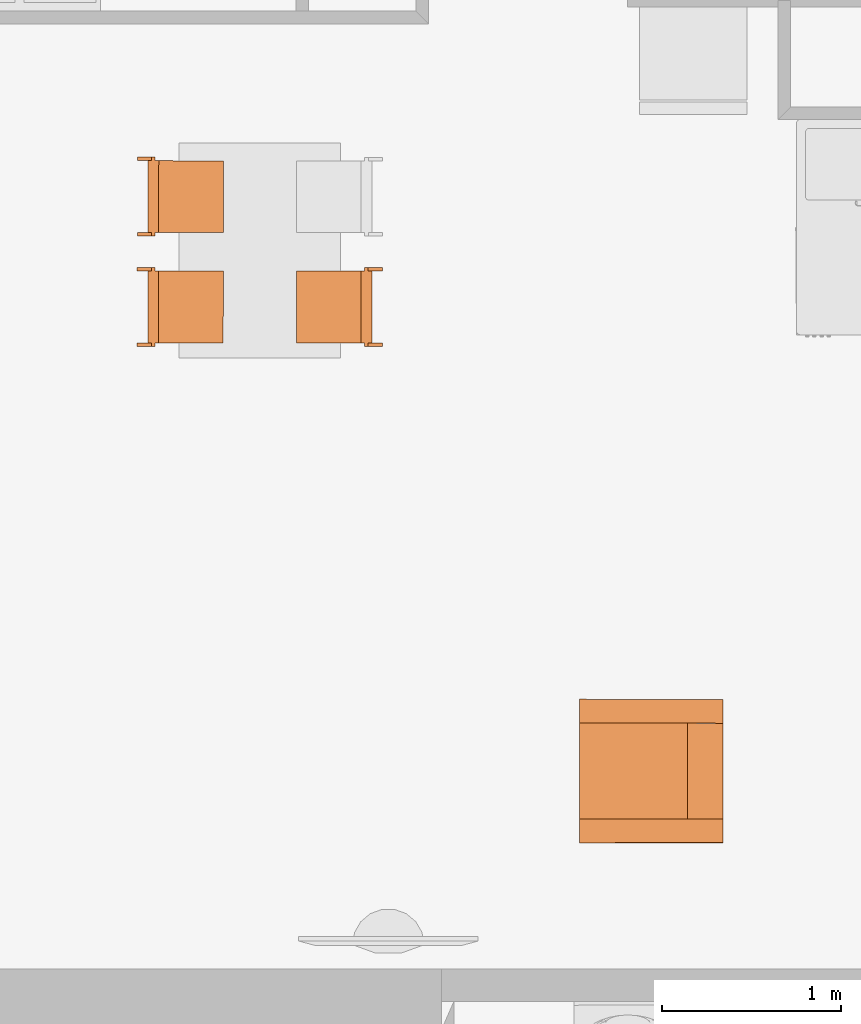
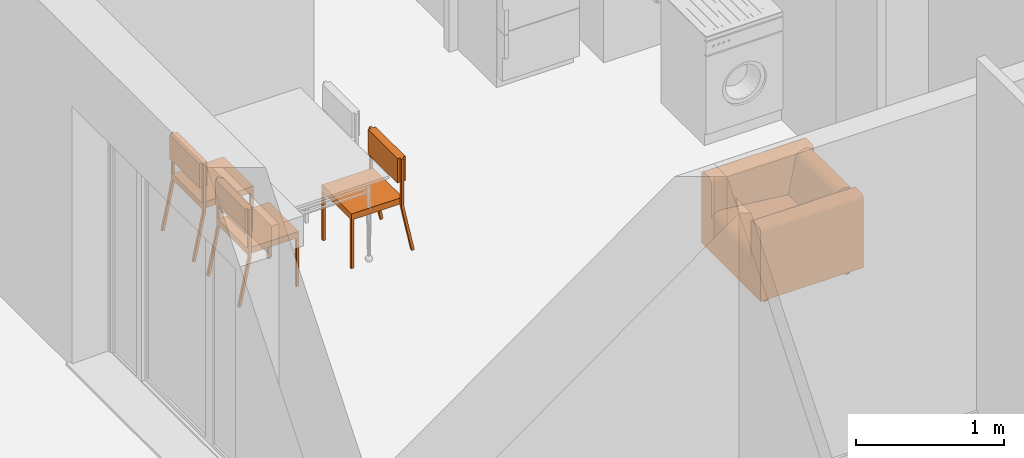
# One storey, part 143 of 164: 4 proxies.
"""IFC2X3 building model written with IfcOpenShell, lengths in millimetres."""

from ifc_helpers import new_model, entity, si_unit, converted_unit, derived_unit, money_unit, direction, frame, origin_with_axes, place, context, subcontext, project, spatial, faceted_brep, source, transform, mapped, type_object, element, save


model = new_model("IFC2X3")

# Units and contexts
model_context = context("Model", 3, precision=0.01, world=origin_with_axes(), true_north=direction((0.0, 1.0)))
body_context = subcontext(model_context, "Body", "Model", "MODEL_VIEW")
ifc_project = project(units=[si_unit("LENGTHUNIT", "METRE", prefix="MILLI"), si_unit("AREAUNIT", "SQUARE_METRE"), si_unit("VOLUMEUNIT", "CUBIC_METRE"), converted_unit("PLANEANGLEUNIT", "DEGREE", entity("IfcPlaneAngleMeasure", 0.0174532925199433), si_unit("PLANEANGLEUNIT", "RADIAN"), dimensions=[0, 0, 0, 0, 0, 0, 0]), money_unit("USD"), converted_unit("TIMEUNIT", "Year", entity("IfcTimeMeasure", 31557600.0), si_unit("TIMEUNIT", "SECOND"), dimensions=[0, 0, 1, 0, 0, 0, 0]), si_unit("MASSUNIT", "GRAM", prefix="KILO"), si_unit("THERMODYNAMICTEMPERATUREUNIT", "DEGREE_CELSIUS"), si_unit("LUMINOUSINTENSITYUNIT", "LUMEN"), si_unit("ENERGYUNIT", "JOULE", prefix="MEGA"), derived_unit("THERMALCONDUCTANCEUNIT", [(si_unit("POWERUNIT", "WATT"), 1), (si_unit("LENGTHUNIT", "METRE"), -1), (si_unit("THERMODYNAMICTEMPERATUREUNIT", "KELVIN"), -1)]), derived_unit("SPECIFICHEATCAPACITYUNIT", [(si_unit("ENERGYUNIT", "JOULE"), 1), (si_unit("MASSUNIT", "GRAM", prefix="KILO"), -1), (si_unit("THERMODYNAMICTEMPERATUREUNIT", "KELVIN"), -1)]), derived_unit("MASSDENSITYUNIT", [(si_unit("MASSUNIT", "GRAM", prefix="KILO"), 1), (si_unit("VOLUMEUNIT", "CUBIC_METRE"), -1)])], contexts=[model_context])

# Site, building, storey
site_placement = place(None, origin_with_axes())
site = spatial("IfcSite", under=ifc_project, at=site_placement, Name="Site", CompositionType="ELEMENT")
building_placement = place(site_placement, origin_with_axes())
building = spatial("IfcBuilding", under=site, at=building_placement, Name="Bâtiment", CompositionType="ELEMENT")
storey_placement = place(building_placement, frame((0.0, 0.0, 5750.0), z_axis=(0.0, 0.0, 1.0), x_axis=(1.0, 0.0, 0.0)))
storey = spatial("IfcBuildingStorey", under=building, at=storey_placement, Name="Etage1", CompositionType="ELEMENT", Elevation=5750.0)

# Proxies
building_element_proxy_type = type_object("IfcBuildingElementProxyType", PredefinedType="NOTDEFINED")
shared_shape_1 = source(origin_with_axes(), body_context, "Body", "Brep", [
    faceted_brep([(39.99999978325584, 0.0, 0.0), (19.99999989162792, 0.0, 0.0), (19.99999989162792, 19.99999936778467, 0.0), (39.99999978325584, 19.99999936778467, 0.0), (39.99999978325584, 0.0, 400.0), (19.99999989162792, 0.0, 400.0), (19.99999989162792, 19.99999936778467, 400.0), (39.99999978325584, 19.99999936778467, 400.0)], [[[0, 1, 2, 3]], [[1, 0, 4, 5]], [[2, 1, 5, 6]], [[3, 2, 6, 7]], [[0, 3, 7, 4]], [[5, 4, 7, 6]]]),
    faceted_brep([(419.9999977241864, 0.0, 0.0), (399.9999978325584, 0.0, 0.0), (399.9999978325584, 19.99999936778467, 0.0), (419.9999977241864, 19.99999936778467, 0.0), (419.9999977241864, 0.0, 400.0), (399.9999978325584, 0.0, 400.0), (399.9999978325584, 19.99999936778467, 400.0), (419.9999977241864, 19.99999936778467, 400.0)], [[[0, 1, 2, 3]], [[1, 0, 4, 5]], [[2, 1, 5, 6]], [[3, 2, 6, 7]], [[0, 3, 7, 4]], [[5, 4, 7, 6]]]),
    faceted_brep([(399.9999978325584, 0.0, 400.0000000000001), (39.99999978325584, 0.0, 400.0000000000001), (39.99999978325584, 19.99999936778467, 400.0000000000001), (399.9999978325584, 19.99999936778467, 400.0000000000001), (399.9999978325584, 0.0, 420.0000000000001), (39.99999978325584, 0.0, 420.0000000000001), (39.99999978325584, 19.99999936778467, 420.0000000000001), (399.9999978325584, 19.99999936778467, 420.0000000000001)], [[[0, 1, 2, 3]], [[1, 0, 4, 5]], [[2, 1, 5, 6]], [[3, 2, 6, 7]], [[0, 3, 7, 4]], [[5, 4, 7, 6]]]),
    faceted_brep([(39.99999978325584, 19.99999936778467, 400.0000000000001), (19.99999989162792, 19.99999936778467, 400.0000000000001), (19.99999989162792, 379.9999879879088, 400.0000000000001), (39.99999978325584, 379.9999879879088, 400.0000000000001), (39.99999978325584, 19.99999936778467, 420.0000000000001), (19.99999989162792, 19.99999936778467, 420.0000000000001), (19.99999989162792, 379.9999879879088, 420.0000000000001), (39.99999978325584, 379.9999879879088, 420.0000000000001)], [[[0, 1, 2, 3]], [[1, 0, 4, 5]], [[2, 1, 5, 6]], [[3, 2, 6, 7]], [[0, 3, 7, 4]], [[5, 4, 7, 6]]]),
    faceted_brep([(419.9999977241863, 379.9999879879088, 400.0000000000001), (19.99999989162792, 379.9999879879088, 400.0000000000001), (19.99999989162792, 399.9999873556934, 400.0000000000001), (419.9999977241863, 399.9999873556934, 400.0000000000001), (419.9999977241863, 379.9999879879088, 420.0000000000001), (19.99999989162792, 379.9999879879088, 420.0000000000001), (19.99999989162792, 399.9999873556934, 420.0000000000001), (419.9999977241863, 399.9999873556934, 420.0000000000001)], [[[0, 1, 2, 3]], [[1, 0, 4, 5]], [[2, 1, 5, 6]], [[3, 2, 6, 7]], [[0, 3, 7, 4]], [[5, 4, 7, 6]]]),
    faceted_brep([(419.9999977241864, 19.99999936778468, 400.0000000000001), (399.9999978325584, 19.99999936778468, 400.0000000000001), (399.9999978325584, 379.9999879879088, 400.0000000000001), (419.9999977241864, 379.9999879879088, 400.0000000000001), (419.9999977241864, 19.99999936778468, 420.0000000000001), (399.9999978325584, 19.99999936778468, 420.0000000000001), (399.9999978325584, 379.9999879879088, 420.0000000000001), (419.9999977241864, 379.9999879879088, 420.0000000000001)], [[[0, 1, 2, 3]], [[1, 0, 4, 5]], [[2, 1, 5, 6]], [[3, 2, 6, 7]], [[0, 3, 7, 4]], [[5, 4, 7, 6]]]),
    faceted_brep([(419.9999977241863, 0.0, 400.0), (19.99999989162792, 0.0, 400.0), (19.99999989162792, 399.9999873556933, 400.0), (419.9999977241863, 399.9999873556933, 400.0), (419.9999977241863, 0.0, 450.0), (19.99999989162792, 0.0, 450.0), (19.99999989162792, 399.9999873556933, 450.0), (419.9999977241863, 399.9999873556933, 450.0)], [[[0, 1, 2, 3]], [[1, 0, 4, 5]], [[2, 1, 5, 6]], [[3, 2, 6, 7]], [[0, 3, 7, 4]], [[5, 4, 7, 6]]]),
    faceted_brep([(19.99999989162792, 379.9999879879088, 380.0), (0.0, 379.9999879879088, 380.0), (0.0, 399.9999873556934, 380.0), (19.99999989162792, 399.9999873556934, 380.0), (19.99999989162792, 379.9999879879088, 780.0), (0.0, 379.9999879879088, 780.0), (0.0, 399.9999873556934, 780.0), (19.99999989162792, 399.9999873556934, 780.0)], [[[0, 1, 2, 3]], [[1, 0, 4, 5]], [[2, 1, 5, 6]], [[3, 2, 6, 7]], [[0, 3, 7, 4]], [[5, 4, 7, 6]]]),
    faceted_brep([(439.9999976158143, 379.9999879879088, 380.0), (419.9999977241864, 379.9999879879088, 380.0), (419.9999977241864, 399.9999873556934, 380.0), (439.9999976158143, 399.9999873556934, 380.0), (439.9999976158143, 379.9999879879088, 780.0), (419.9999977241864, 379.9999879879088, 780.0), (419.9999977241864, 399.9999873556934, 780.0), (439.9999976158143, 399.9999873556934, 780.0)], [[[0, 1, 2, 3]], [[1, 0, 4, 5]], [[2, 1, 5, 6]], [[3, 2, 6, 7]], [[0, 3, 7, 4]], [[5, 4, 7, 6]]]),
    faceted_brep([(419.9999977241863, 359.999988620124, 580.0000000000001), (19.99999989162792, 359.999988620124, 580.0000000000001), (19.99999989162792, 419.9999867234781, 580.0000000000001), (419.9999977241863, 419.9999867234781, 580.0000000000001), (419.9999977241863, 359.999988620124, 780.0), (19.99999989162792, 359.999988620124, 780.0), (19.99999989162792, 419.9999867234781, 780.0), (419.9999977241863, 419.9999867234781, 780.0)], [[[0, 1, 2, 3]], [[1, 0, 4, 5]], [[2, 1, 5, 6]], [[3, 2, 6, 7]], [[0, 3, 7, 4]], [[5, 4, 7, 6]]]),
    faceted_brep([(19.99999989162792, 459.9999854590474, 0.0), (0.0, 459.9999854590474, 0.0), (0.0, 479.5709559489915, 4.120326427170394), (19.99999989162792, 479.5709559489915, 4.120326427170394), (19.99999989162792, 379.997669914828, 379.999760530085), (0.0, 379.997669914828, 379.999760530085), (0.0, 399.5686404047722, 384.1200869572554), (19.99999989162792, 399.5686404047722, 384.1200869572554)], [[[0, 1, 2, 3]], [[1, 0, 4, 5]], [[2, 1, 5, 6]], [[3, 2, 6, 7]], [[0, 3, 7, 4]], [[5, 4, 7, 6]]]),
    faceted_brep([(439.9999976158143, 459.9999854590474, 0.0), (419.9999977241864, 459.9999854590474, 0.0), (419.9999977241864, 479.5709559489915, 4.120326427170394), (439.9999976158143, 479.5709559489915, 4.120326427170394), (439.9999976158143, 379.997669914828, 379.999760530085), (419.9999977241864, 379.997669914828, 379.999760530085), (419.9999977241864, 399.5686404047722, 384.1200869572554), (439.9999976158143, 399.5686404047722, 384.1200869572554)], [[[0, 1, 2, 3]], [[1, 0, 4, 5]], [[2, 1, 5, 6]], [[3, 2, 6, 7]], [[0, 3, 7, 4]], [[5, 4, 7, 6]]]),
])
proxy_1_placement = place(storey_placement, frame((2220344.917869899, -640105.751493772, 0.0), z_axis=(0.0, 0.0, 1.0), x_axis=(-0.0005412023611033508, -0.9999998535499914, 0.0)))
element("IfcBuildingElementProxy", 1, at=proxy_1_placement, inside=storey, type_object=building_element_proxy_type, Name="Obj.-027", context=body_context, shape_type="MappedRepresentation", body=[
    mapped(shared_shape_1, transform((0.0, 0.0, 0.0))),
])
shared_shape_2 = source(origin_with_axes(), body_context, "Body", "Brep", [
    faceted_brep([(-39.99999978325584, 0.0, 0.0), (-39.99999978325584, 19.99999936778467, 0.0), (-19.99999989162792, 19.99999936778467, 0.0), (-19.99999989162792, 0.0, 0.0), (-39.99999978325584, 0.0, 400.0), (-39.99999978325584, 19.99999936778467, 400.0), (-19.99999989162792, 19.99999936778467, 400.0), (-19.99999989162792, 0.0, 400.0)], [[[0, 1, 2, 3]], [[0, 4, 5, 1]], [[1, 5, 6, 2]], [[2, 6, 7, 3]], [[3, 7, 4, 0]], [[7, 6, 5, 4]]]),
    faceted_brep([(-419.9999977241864, 0.0, 0.0), (-419.9999977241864, 19.99999936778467, 0.0), (-399.9999978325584, 19.99999936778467, 0.0), (-399.9999978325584, 0.0, 0.0), (-419.9999977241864, 0.0, 400.0), (-419.9999977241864, 19.99999936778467, 400.0), (-399.9999978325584, 19.99999936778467, 400.0), (-399.9999978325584, 0.0, 400.0)], [[[0, 1, 2, 3]], [[0, 4, 5, 1]], [[1, 5, 6, 2]], [[2, 6, 7, 3]], [[3, 7, 4, 0]], [[7, 6, 5, 4]]]),
    faceted_brep([(-399.9999978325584, 0.0, 400.0000000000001), (-399.9999978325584, 19.99999936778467, 400.0000000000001), (-39.99999978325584, 19.99999936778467, 400.0000000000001), (-39.99999978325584, 0.0, 400.0000000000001), (-399.9999978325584, 0.0, 420.0000000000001), (-399.9999978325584, 19.99999936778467, 420.0000000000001), (-39.99999978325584, 19.99999936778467, 420.0000000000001), (-39.99999978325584, 0.0, 420.0000000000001)], [[[0, 1, 2, 3]], [[0, 4, 5, 1]], [[1, 5, 6, 2]], [[2, 6, 7, 3]], [[3, 7, 4, 0]], [[7, 6, 5, 4]]]),
    faceted_brep([(-39.99999978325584, 19.99999936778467, 400.0000000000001), (-39.99999978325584, 379.9999879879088, 400.0000000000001), (-19.99999989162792, 379.9999879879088, 400.0000000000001), (-19.99999989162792, 19.99999936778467, 400.0000000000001), (-39.99999978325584, 19.99999936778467, 420.0000000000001), (-39.99999978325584, 379.9999879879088, 420.0000000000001), (-19.99999989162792, 379.9999879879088, 420.0000000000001), (-19.99999989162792, 19.99999936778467, 420.0000000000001)], [[[0, 1, 2, 3]], [[0, 4, 5, 1]], [[1, 5, 6, 2]], [[2, 6, 7, 3]], [[3, 7, 4, 0]], [[7, 6, 5, 4]]]),
    faceted_brep([(-419.9999977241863, 379.9999879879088, 400.0000000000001), (-419.9999977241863, 399.9999873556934, 400.0000000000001), (-19.99999989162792, 399.9999873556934, 400.0000000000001), (-19.99999989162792, 379.9999879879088, 400.0000000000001), (-419.9999977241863, 379.9999879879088, 420.0000000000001), (-419.9999977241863, 399.9999873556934, 420.0000000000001), (-19.99999989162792, 399.9999873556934, 420.0000000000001), (-19.99999989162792, 379.9999879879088, 420.0000000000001)], [[[0, 1, 2, 3]], [[0, 4, 5, 1]], [[1, 5, 6, 2]], [[2, 6, 7, 3]], [[3, 7, 4, 0]], [[7, 6, 5, 4]]]),
    faceted_brep([(-419.9999977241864, 19.99999936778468, 400.0000000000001), (-419.9999977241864, 379.9999879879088, 400.0000000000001), (-399.9999978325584, 379.9999879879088, 400.0000000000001), (-399.9999978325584, 19.99999936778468, 400.0000000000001), (-419.9999977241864, 19.99999936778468, 420.0000000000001), (-419.9999977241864, 379.9999879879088, 420.0000000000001), (-399.9999978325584, 379.9999879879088, 420.0000000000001), (-399.9999978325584, 19.99999936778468, 420.0000000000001)], [[[0, 1, 2, 3]], [[0, 4, 5, 1]], [[1, 5, 6, 2]], [[2, 6, 7, 3]], [[3, 7, 4, 0]], [[7, 6, 5, 4]]]),
    faceted_brep([(-419.9999977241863, 0.0, 400.0), (-419.9999977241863, 399.9999873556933, 400.0), (-19.99999989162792, 399.9999873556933, 400.0), (-19.99999989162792, 0.0, 400.0), (-419.9999977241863, 0.0, 450.0), (-419.9999977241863, 399.9999873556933, 450.0), (-19.99999989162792, 399.9999873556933, 450.0), (-19.99999989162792, 0.0, 450.0)], [[[0, 1, 2, 3]], [[0, 4, 5, 1]], [[1, 5, 6, 2]], [[2, 6, 7, 3]], [[3, 7, 4, 0]], [[7, 6, 5, 4]]]),
    faceted_brep([(-19.99999989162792, 379.9999879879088, 380.0), (-19.99999989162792, 399.9999873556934, 380.0), (0.0, 399.9999873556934, 380.0), (0.0, 379.9999879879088, 380.0), (-19.99999989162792, 379.9999879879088, 780.0), (-19.99999989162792, 399.9999873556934, 780.0), (0.0, 399.9999873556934, 780.0), (0.0, 379.9999879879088, 780.0)], [[[0, 1, 2, 3]], [[0, 4, 5, 1]], [[1, 5, 6, 2]], [[2, 6, 7, 3]], [[3, 7, 4, 0]], [[7, 6, 5, 4]]]),
    faceted_brep([(-439.9999976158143, 379.9999879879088, 380.0), (-439.9999976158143, 399.9999873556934, 380.0), (-419.9999977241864, 399.9999873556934, 380.0), (-419.9999977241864, 379.9999879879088, 380.0), (-439.9999976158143, 379.9999879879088, 780.0), (-439.9999976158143, 399.9999873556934, 780.0), (-419.9999977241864, 399.9999873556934, 780.0), (-419.9999977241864, 379.9999879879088, 780.0)], [[[0, 1, 2, 3]], [[0, 4, 5, 1]], [[1, 5, 6, 2]], [[2, 6, 7, 3]], [[3, 7, 4, 0]], [[7, 6, 5, 4]]]),
    faceted_brep([(-419.9999977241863, 359.999988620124, 580.0000000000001), (-419.9999977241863, 419.9999867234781, 580.0000000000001), (-19.99999989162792, 419.9999867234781, 580.0000000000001), (-19.99999989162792, 359.999988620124, 580.0000000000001), (-419.9999977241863, 359.999988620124, 780.0), (-419.9999977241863, 419.9999867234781, 780.0), (-19.99999989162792, 419.9999867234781, 780.0), (-19.99999989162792, 359.999988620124, 780.0)], [[[0, 1, 2, 3]], [[0, 4, 5, 1]], [[1, 5, 6, 2]], [[2, 6, 7, 3]], [[3, 7, 4, 0]], [[7, 6, 5, 4]]]),
    faceted_brep([(-19.99999989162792, 459.9999854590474, 0.0), (-19.99999989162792, 479.5709559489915, 4.120326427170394), (0.0, 479.5709559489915, 4.120326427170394), (0.0, 459.9999854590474, 0.0), (-19.99999989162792, 379.997669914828, 379.999760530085), (-19.99999989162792, 399.5686404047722, 384.1200869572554), (0.0, 399.5686404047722, 384.1200869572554), (0.0, 379.997669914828, 379.999760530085)], [[[0, 1, 2, 3]], [[0, 4, 5, 1]], [[1, 5, 6, 2]], [[2, 6, 7, 3]], [[3, 7, 4, 0]], [[7, 6, 5, 4]]]),
    faceted_brep([(-439.9999976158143, 459.9999854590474, 0.0), (-439.9999976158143, 479.5709559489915, 4.120326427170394), (-419.9999977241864, 479.5709559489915, 4.120326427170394), (-419.9999977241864, 459.9999854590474, 0.0), (-439.9999976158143, 379.997669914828, 379.999760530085), (-439.9999976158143, 399.5686404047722, 384.1200869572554), (-419.9999977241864, 399.5686404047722, 384.1200869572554), (-419.9999977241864, 379.997669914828, 379.999760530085)], [[[0, 1, 2, 3]], [[0, 4, 5, 1]], [[1, 5, 6, 2]], [[2, 6, 7, 3]], [[3, 7, 4, 0]], [[7, 6, 5, 4]]]),
])
for number, where, z_axis, x_axis, name in (
    (2, (2219936.860546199, -640105.5306521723, 0.0), (0.0, 0.0, 1.0), (0.0005412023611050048, 0.9999998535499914, 0.0), "Obj.-027"),
    (3, (2219937.193453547, -639490.4053373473, 0.0), (0.0, 0.0, 1.0), (0.0005412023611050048, 0.9999998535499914, 0.0), "Obj.-027"),
):
    element("IfcBuildingElementProxy", number, at=place(storey_placement, frame(where, z_axis=z_axis, x_axis=x_axis)), inside=storey, type_object=building_element_proxy_type, Name=name, context=body_context, shape_type="MappedRepresentation", body=[
        mapped(shared_shape_2, transform((0.0, 0.0, 0.0))),
    ])
shared_shape_3 = source(origin_with_axes(), body_context, "Body", "Brep", [
    faceted_brep([(-333.3000000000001, 66.7, 0.0), (-333.3000000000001, 100.0, 0.0), (-300.0000000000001, 100.0, 0.0), (-300.0000000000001, 66.7, 0.0), (-333.3000000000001, 66.7, 66.69999999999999), (-333.3000000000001, 100.0, 66.69999999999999), (-300.0000000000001, 100.0, 66.69999999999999), (-300.0000000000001, 66.7, 66.69999999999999)], [[[0, 1, 2, 3]], [[0, 4, 5, 1]], [[1, 5, 6, 2]], [[2, 6, 7, 3]], [[3, 7, 4, 0]], [[7, 6, 5, 4]]]),
    faceted_brep([(-333.3000000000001, 700.0000000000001, 0.0), (-333.3000000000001, 733.3000000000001, 0.0), (-300.0000000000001, 733.3000000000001, 0.0), (-300.0000000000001, 700.0000000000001, 0.0), (-333.3000000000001, 700.0000000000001, 66.69999999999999), (-333.3000000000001, 733.3000000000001, 66.69999999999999), (-300.0000000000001, 733.3000000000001, 66.69999999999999), (-300.0000000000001, 700.0000000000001, 66.69999999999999)], [[[0, 1, 2, 3]], [[0, 4, 5, 1]], [[1, 5, 6, 2]], [[2, 6, 7, 3]], [[3, 7, 4, 0]], [[7, 6, 5, 4]]]),
    faceted_brep([(300.0000000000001, 66.7, 0.0), (300.0000000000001, 100.0, 0.0), (333.3000000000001, 100.0, 0.0), (333.3000000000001, 66.7, 0.0), (300.0000000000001, 66.7, 66.69999999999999), (300.0000000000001, 100.0, 66.69999999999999), (333.3000000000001, 100.0, 66.69999999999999), (333.3000000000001, 66.7, 66.69999999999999)], [[[0, 1, 2, 3]], [[0, 4, 5, 1]], [[1, 5, 6, 2]], [[2, 6, 7, 3]], [[3, 7, 4, 0]], [[7, 6, 5, 4]]]),
    faceted_brep([(300.0000000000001, 700.0000000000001, 0.0), (300.0000000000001, 733.3000000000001, 0.0), (333.3000000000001, 733.3000000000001, 0.0), (333.3000000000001, 700.0000000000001, 0.0), (300.0000000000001, 700.0000000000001, 66.69999999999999), (300.0000000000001, 733.3000000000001, 66.69999999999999), (333.3000000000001, 733.3000000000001, 66.69999999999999), (333.3000000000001, 700.0000000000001, 66.69999999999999)], [[[0, 1, 2, 3]], [[0, 4, 5, 1]], [[1, 5, 6, 2]], [[2, 6, 7, 3]], [[3, 7, 4, 0]], [[7, 6, 5, 4]]]),
    faceted_brep([(-266.7, 800.0, 66.69999999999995), (-266.7, 0.0, 66.69999999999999), (-400.033, 0.0, 66.69999999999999), (-400.033, 800.0, 66.69999999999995), (-266.7, 800.0, 67.19999999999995), (-266.7, 0.0, 67.19999999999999), (-266.7, 0.0, 633.37), (-266.7, 0.0, 636.2859999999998), (-267.713, 0.0, 642.029), (-269.707, 0.0, 647.5099999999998), (-272.623, 0.0, 652.5599999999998), (-276.372, 0.0, 657.0279999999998), (-280.84, 0.0, 660.7769999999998), (-285.89, 0.0, 663.6929999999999), (-291.371, 0.0, 665.6869999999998), (-297.114, 0.0, 666.6999999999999), (-300.03, 0.0, 666.6999999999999), (-366.703, 0.0, 666.6999999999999), (-369.619, 0.0, 666.6999999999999), (-375.363, 0.0, 665.6869999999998), (-380.843, 0.0, 663.6929999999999), (-385.894, 0.0, 660.7769999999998), (-390.361, 0.0, 657.0279999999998), (-394.11, 0.0, 652.5599999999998), (-397.026, 0.0, 647.5099999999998), (-399.021, 0.0, 642.029), (-400.033, 0.0, 636.2859999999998), (-400.033, 0.0, 633.37), (-400.033, 800.0, 633.37), (-400.033, 800.0, 636.2859999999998), (-399.021, 800.0, 642.029), (-397.026, 800.0, 647.5099999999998), (-394.11, 800.0, 652.5599999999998), (-390.361, 800.0, 657.0279999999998), (-385.894, 800.0, 660.7769999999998), (-380.843, 800.0, 663.6929999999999), (-375.363, 800.0, 665.6869999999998), (-369.619, 800.0, 666.6999999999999), (-366.703, 800.0, 666.6999999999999), (-300.03, 800.0, 666.6999999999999), (-297.114, 800.0, 666.6999999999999), (-291.371, 800.0, 665.6869999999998), (-285.89, 800.0, 663.6929999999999), (-280.84, 800.0, 660.7769999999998), (-276.372, 800.0, 657.0279999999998), (-272.623, 800.0, 652.5599999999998), (-269.707, 800.0, 647.5099999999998), (-267.713, 800.0, 642.029), (-266.7, 800.0, 636.2859999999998), (-266.7, 800.0, 633.37)], [[[0, 1, 2, 3]], [[4, 5, 1, 0]], [[1, 5, 6, 7, 8, 9, 10, 11, 12, 13, 14, 15, 16, 17, 18, 19, 20, 21, 22, 23, 24, 25, 26, 27, 2]], [[3, 2, 27, 28]], [[0, 3, 28, 29, 30, 31, 32, 33, 34, 35, 36, 37, 38, 39, 40, 41, 42, 43, 44, 45, 46, 47, 48, 49, 4]], [[49, 6, 5, 4]], [[48, 7, 6, 49]], [[47, 8, 7, 48]], [[46, 9, 8, 47]], [[45, 10, 9, 46]], [[44, 11, 10, 45]], [[43, 12, 11, 44]], [[42, 13, 12, 43]], [[41, 14, 13, 42]], [[40, 15, 14, 41]], [[39, 16, 15, 40]], [[38, 17, 16, 39]], [[37, 18, 17, 38]], [[36, 19, 18, 37]], [[35, 20, 19, 36]], [[34, 21, 20, 35]], [[33, 22, 21, 34]], [[32, 23, 22, 33]], [[31, 24, 23, 32]], [[30, 25, 24, 31]], [[29, 26, 25, 30]], [[28, 27, 26, 29]]]),
    faceted_brep([(400.0, 800.0, 66.69999999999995), (400.0, 0.0, 66.69999999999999), (266.667, 0.0, 66.69999999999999), (266.667, 800.0, 66.69999999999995), (400.0, 800.0, 67.19999999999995), (400.0, 0.0, 67.19999999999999), (400.0, 0.0, 633.37), (400.0, 0.0, 636.2859999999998), (398.987, 0.0, 642.029), (396.9930000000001, 0.0, 647.5099999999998), (394.077, 0.0, 652.5599999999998), (390.328, 0.0, 657.0279999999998), (385.86, 0.0, 660.7769999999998), (380.8100000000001, 0.0, 663.6929999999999), (375.329, 0.0, 665.6869999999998), (369.586, 0.0, 666.6999999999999), (366.67, 0.0, 666.6999999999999), (299.997, 0.0, 666.6999999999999), (297.081, 0.0, 666.6999999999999), (291.337, 0.0, 665.6869999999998), (285.857, 0.0, 663.6929999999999), (280.806, 0.0, 660.7769999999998), (276.339, 0.0, 657.0279999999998), (272.59, 0.0, 652.5599999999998), (269.674, 0.0, 647.5099999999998), (267.679, 0.0, 642.029), (266.667, 0.0, 636.2859999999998), (266.667, 0.0, 633.37), (266.667, 800.0, 633.37), (266.667, 800.0, 636.2859999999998), (267.679, 800.0, 642.029), (269.674, 800.0, 647.5099999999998), (272.59, 800.0, 652.5599999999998), (276.339, 800.0, 657.0279999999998), (280.806, 800.0, 660.7769999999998), (285.857, 800.0, 663.6929999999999), (291.337, 800.0, 665.6869999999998), (297.081, 800.0, 666.6999999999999), (299.997, 800.0, 666.6999999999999), (366.67, 800.0, 666.6999999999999), (369.586, 800.0, 666.6999999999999), (375.329, 800.0, 665.6869999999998), (380.8100000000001, 800.0, 663.6929999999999), (385.86, 800.0, 660.7769999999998), (390.328, 800.0, 657.0279999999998), (394.077, 800.0, 652.5599999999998), (396.9930000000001, 800.0, 647.5099999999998), (398.987, 800.0, 642.029), (400.0, 800.0, 636.2859999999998), (400.0, 800.0, 633.37)], [[[0, 1, 2, 3]], [[4, 5, 1, 0]], [[1, 5, 6, 7, 8, 9, 10, 11, 12, 13, 14, 15, 16, 17, 18, 19, 20, 21, 22, 23, 24, 25, 26, 27, 2]], [[3, 2, 27, 28]], [[0, 3, 28, 29, 30, 31, 32, 33, 34, 35, 36, 37, 38, 39, 40, 41, 42, 43, 44, 45, 46, 47, 48, 49, 4]], [[49, 6, 5, 4]], [[48, 7, 6, 49]], [[47, 8, 7, 48]], [[46, 9, 8, 47]], [[45, 10, 9, 46]], [[44, 11, 10, 45]], [[43, 12, 11, 44]], [[42, 13, 12, 43]], [[41, 14, 13, 42]], [[40, 15, 14, 41]], [[39, 16, 15, 40]], [[38, 17, 16, 39]], [[37, 18, 17, 38]], [[36, 19, 18, 37]], [[35, 20, 19, 36]], [[34, 21, 20, 35]], [[33, 22, 21, 34]], [[32, 23, 22, 33]], [[31, 24, 23, 32]], [[30, 25, 24, 31]], [[29, 26, 25, 30]], [[28, 27, 26, 29]]]),
    faceted_brep([(266.6667, 0.0, 66.69999999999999), (-266.6333, 0.0, 66.69999999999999), (-266.6333, 800.0, 66.69999999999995), (266.6667, 800.0, 66.69999999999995), (266.6667, 0.0, 67.2), (-266.6333, 0.0, 67.2), (-266.6333, 0.0, 325.5449999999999), (-266.6333, -0.2359999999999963, 327.1109999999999), (-266.6333, 1.052000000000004, 338.7049999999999), (-266.6333, 4.334000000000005, 349.8989999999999), (-266.6333, 9.510000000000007, 360.3539999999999), (-266.6333, 16.42300000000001, 369.7509999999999), (-266.6333, 24.86200000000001, 377.8049999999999), (-266.6333, 34.57200000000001, 384.271), (-266.6333, 45.25800000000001, 388.9519999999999), (-266.6333, 56.59300000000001, 391.707), (-266.6333, 68.23500000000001, 392.4519999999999), (-266.6333, 74.03200000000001, 391.808), (-266.6333, 600.0000000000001, 333.3669999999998), (-266.6333, 600.0980000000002, 333.8569999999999), (-266.6333, 655.9480000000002, 613.1049999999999), (-266.6333, 656.6790000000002, 617.351), (-266.6333, 660.6690000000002, 628.314), (-266.6333, 666.5020000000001, 638.4159999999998), (-266.6333, 674.0000000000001, 647.3529999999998), (-266.6333, 682.937, 654.8509999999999), (-266.6333, 693.0390000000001, 660.6839999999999), (-266.6333, 704.0020000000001, 664.6739999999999), (-266.6333, 715.4900000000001, 666.6999999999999), (-266.6333, 721.3230000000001, 666.6999999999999), (-266.6333, 733.33, 666.6999999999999), (-266.6333, 739.163, 666.6999999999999), (-266.6333, 750.6510000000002, 664.6739999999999), (-266.6333, 761.614, 660.6839999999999), (-266.6333, 771.716, 654.8509999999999), (-266.6333, 780.653, 647.3529999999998), (-266.6333, 788.1510000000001, 638.4159999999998), (-266.6333, 793.984, 628.314), (-266.6333, 797.974, 617.351), (-266.6333, 800.0, 605.8629999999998), (-266.6333, 800.0, 600.0299999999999), (266.6667, 800.0, 600.0299999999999), (266.6667, 800.0, 605.8629999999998), (266.6667, 797.974, 617.351), (266.6667, 793.984, 628.314), (266.6667, 788.1510000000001, 638.4159999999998), (266.6667, 780.653, 647.3529999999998), (266.6667, 771.716, 654.8509999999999), (266.6667, 761.614, 660.6839999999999), (266.6667, 750.6510000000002, 664.6739999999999), (266.6667, 739.163, 666.6999999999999), (266.6667, 733.33, 666.6999999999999), (266.6667, 721.3230000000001, 666.6999999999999), (266.6667, 715.4900000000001, 666.6999999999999), (266.6667, 704.0020000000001, 664.6739999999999), (266.6667, 693.0390000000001, 660.6839999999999), (266.6667, 682.937, 654.8509999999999), (266.6667, 674.0000000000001, 647.3529999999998), (266.6667, 666.5020000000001, 638.4159999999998), (266.6667, 660.6690000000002, 628.314), (266.6667, 656.6790000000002, 617.351), (266.6667, 655.9480000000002, 613.1049999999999), (266.6667, 600.0980000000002, 333.8569999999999), (266.6667, 600.0000000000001, 333.3669999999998), (266.6667, 74.03200000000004, 391.808), (266.6667, 68.23500000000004, 392.4519999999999), (266.6667, 56.59300000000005, 391.707), (266.6667, 45.25800000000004, 388.9519999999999), (266.6667, 34.57200000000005, 384.271), (266.6667, 24.86200000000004, 377.8049999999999), (266.6667, 16.42300000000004, 369.7509999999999), (266.6667, 9.510000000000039, 360.3539999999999), (266.6667, 4.334000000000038, 349.8989999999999), (266.6667, 1.052000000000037, 338.7049999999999), (266.6667, -0.2359999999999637, 327.1109999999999), (266.6667, 0.0, 325.5449999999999)], [[[0, 1, 2, 3]], [[4, 5, 1, 0]], [[1, 5, 6, 7, 8, 9, 10, 11, 12, 13, 14, 15, 16, 17, 18, 19, 20, 21, 22, 23, 24, 25, 26, 27, 28, 29, 30, 31, 32, 33, 34, 35, 36, 37, 38, 39, 40, 2]], [[3, 2, 40, 41]], [[0, 3, 41, 42, 43, 44, 45, 46, 47, 48, 49, 50, 51, 52, 53, 54, 55, 56, 57, 58, 59, 60, 61, 62, 63, 64, 65, 66, 67, 68, 69, 70, 71, 72, 73, 74, 75, 4]], [[75, 6, 5, 4]], [[74, 7, 6, 75]], [[73, 8, 7, 74]], [[72, 9, 8, 73]], [[71, 10, 9, 72]], [[70, 11, 10, 71]], [[69, 12, 11, 70]], [[68, 13, 12, 69]], [[67, 14, 13, 68]], [[66, 15, 14, 67]], [[65, 16, 15, 66]], [[64, 17, 16, 65]], [[63, 18, 17, 64]], [[62, 19, 18, 63]], [[61, 20, 19, 62]], [[60, 21, 20, 61]], [[59, 22, 21, 60]], [[58, 23, 22, 59]], [[57, 24, 23, 58]], [[56, 25, 24, 57]], [[55, 26, 25, 56]], [[54, 27, 26, 55]], [[53, 28, 27, 54]], [[52, 29, 28, 53]], [[51, 30, 29, 52]], [[50, 31, 30, 51]], [[49, 32, 31, 50]], [[48, 33, 32, 49]], [[47, 34, 33, 48]], [[46, 35, 34, 47]], [[45, 36, 35, 46]], [[44, 37, 36, 45]], [[43, 38, 37, 44]], [[42, 39, 38, 43]], [[41, 40, 39, 42]]]),
])
proxy_2_placement = place(storey_placement, frame((2221923.384650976, -642912.0247262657, 800.0000000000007), z_axis=(0.0, 0.0, 1.0), x_axis=(-0.0006263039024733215, -0.9999998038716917, 0.0)))
element("IfcBuildingElementProxy", 4, at=proxy_2_placement, inside=storey, type_object=building_element_proxy_type, Name="Obj.-034", context=body_context, shape_type="MappedRepresentation", body=[
    mapped(shared_shape_3, transform((0.0, 0.0, 0.0))),
])

save(model, "model.ifc")
